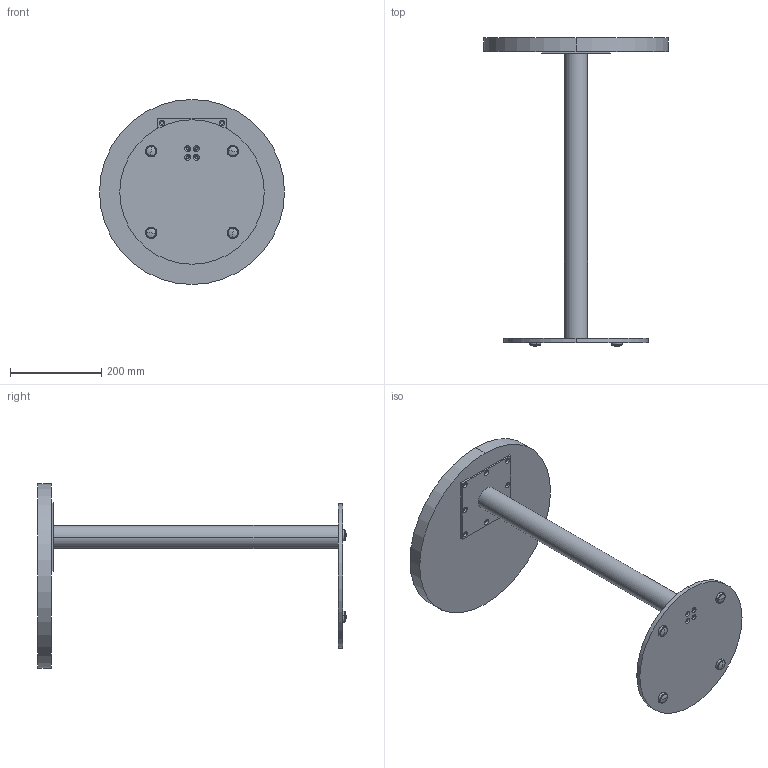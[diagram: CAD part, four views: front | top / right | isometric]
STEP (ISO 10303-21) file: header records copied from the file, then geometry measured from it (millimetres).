
FILE_DESCRIPTION (( 'STEP AP203' ), '1' );
FILE_NAME ('SIEN-LAP-16R-FX.STEP', '2024-10-15T19:00:09', ( '' ), ( '' ), 'SwSTEP 2.0', 'SolidWorks 2021', '' );
FILE_SCHEMA (( 'CONFIG_CONTROL_DESIGN' ));
Length unit declared in the file: inch
Products named in the file (10): 90720A520_Heavy Duty Twist-Resistant Rivet Nut_90720A520; C2.25 Column Insert Plate; Welded C-2.25 Col Prototype; 12.5 Round, Long Mount Plate; C2.25 Column; 150mm Square Plate; SIEN-LAP-16R-FX; 12.5 Rnd. C-Base Plate Assy.; ALG-SS; TT-16R
Assembly tree (15 placements, depth 3):
  SIEN-LAP-16R-FX
    TT-16R
    Welded C-2.25 Col Prototype
      150mm Square Plate
      C2.25 Column
      C2.25 Column Insert Plate
      90720A520_Heavy Duty Twist-Resistant Rivet Nut_90720A520  x4
    12.5 Rnd. C-Base Plate Assy.
      12.5 Round, Long Mount Plate
      ALG-SS  x4
Bounding box: 406.4 x 677.86 x 406.4 mm (x, y, z)
Volume: 4978685.9 mm3; surface area: 722674.4 mm2
Topology: 17 solids, 17 shells, 541 faces, 1269 edges, 766 vertices
Faces by surface type: cylinder 219, cone 192, plane 94, bspline 20, sphere 8, torus 8
Entity records: 11458 total; most frequent: CARTESIAN_POINT 4866, DIRECTION 1165, ORIENTED_EDGE 1088, EDGE_CURVE 544, AXIS2_PLACEMENT_3D 447, VERTEX_POINT 337, EDGE_LOOP 273, LINE 271
